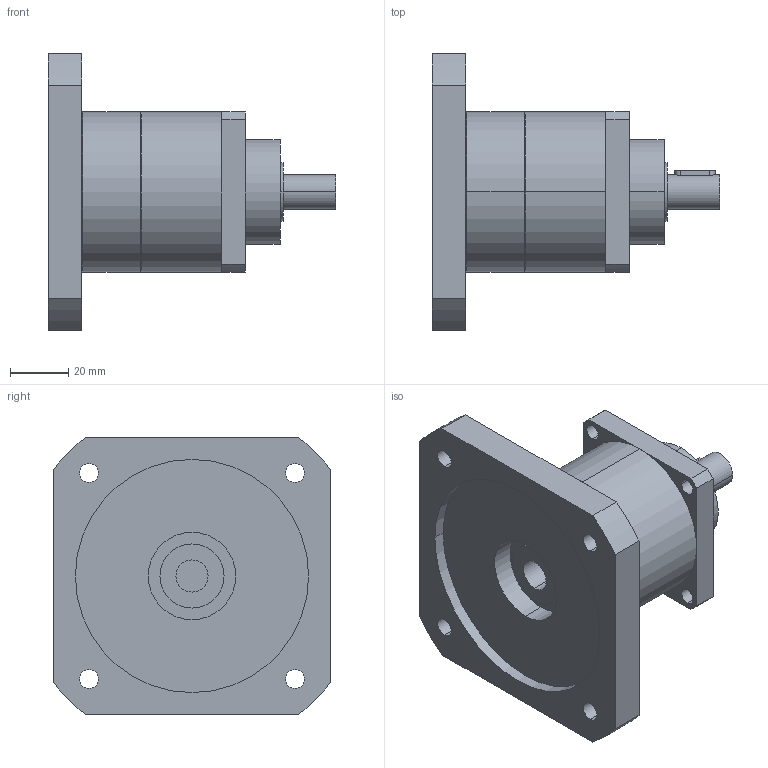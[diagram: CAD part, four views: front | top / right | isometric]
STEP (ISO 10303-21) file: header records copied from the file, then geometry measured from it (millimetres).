
FILE_DESCRIPTION(('CoCreate Modeling STEP Export'),'2;1');
FILE_NAME('GPT55_ig-3-4-5-7-10_12_B5A_11_P07.stp','2014-08-25T14:31:15',(''),(''),'CoCreate Modeling STEP processor for AP214 (Solid Model)','CoCreate Modeling 16.00C 25-Feb-2009 (C) Parametric Technology GmbH','');
FILE_SCHEMA(('AUTOMOTIVE_DESIGN { 1 0 10303 214 1 1 1 1 }'));
Length unit declared in the file: millimetre
Products named in the file (2): GPT55_ig-3-4-5-7-10_12_B5A_11_P07
Assembly tree (1 placements, depth 2):
  GPT55_ig-3-4-5-7-10_12_B5A_11_P07
    GPT55_ig-3-4-5-7-10_12_B5A_11_P07
Bounding box: 98.5 x 95.09 x 95.09 mm (x, y, z)
Volume: 225364.7 mm3; surface area: 39177.8 mm2
Topology: 1 solids, 1 shells, 77 faces, 197 edges, 132 vertices
Faces by surface type: cylinder 46, plane 27, cone 4
Entity records: 2480 total; most frequent: CARTESIAN_POINT 703, ORIENTED_EDGE 394, DIRECTION 318, EDGE_CURVE 197, VERTEX_POINT 132, AXIS2_PLACEMENT_3D 117, EDGE_LOOP 103, VECTOR 84
